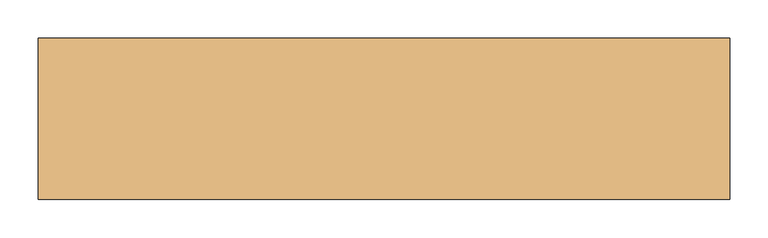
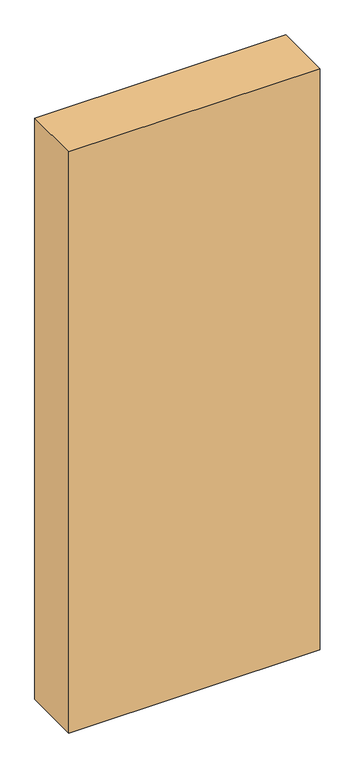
"""IFC4 building model written with IfcOpenShell, lengths in millimetres: door geometry, Dr_Проем-Простой : ДВ."""

import ifcopenshell
import ifcopenshell.guid

model = None  # the IFC model being written
_history = None  # IfcOwnerHistory: only IFC2X3 demands one
_inside = {}  # id of a spatial element -> (the spatial element, [elements in it])
_under = {}  # id of a project, library or spatial element -> (it, [spatial elements below it])
_declared = {}  # id of a project -> (the project, [libraries it declares])
_typed = {}  # id of a type object -> (the type object, [elements of that type])
_made_of = {}  # id of a material, layer set ... -> (it, [elements and type objects made of it])


def new_model(schema):
    """Start an empty IFC model of exactly this schema.

    Asked for "IFC4X3", IfcOpenShell would pick the latest addendum, in which some entities
    have other attributes; the version numbers below select the first issue.
    IFC2X3 requires an IfcOwnerHistory on every rooted entity: one is made here for all.
    """
    global model, _history
    if schema == "IFC4X3":
        model = ifcopenshell.file(schema_version=(4, 3, 0, 0))
    else:
        model = ifcopenshell.file(schema=schema)
    _inside.clear()
    _under.clear()
    _declared.clear()
    _typed.clear()
    _made_of.clear()
    _history = None
    if model.schema == "IFC2X3":
        org = make("IfcOrganization", Name="unknown")
        user = make(
            "IfcPersonAndOrganization",
            ThePerson=make("IfcPerson", FamilyName="unknown"),
            TheOrganization=org,
        )
        app = make(
            "IfcApplication",
            ApplicationDeveloper=org,
            Version="unknown",
            ApplicationFullName="unknown",
            ApplicationIdentifier="unknown",
        )
        _history = make(
            "IfcOwnerHistory",
            OwningUser=user,
            OwningApplication=app,
            ChangeAction="ADDED",
            CreationDate=0,
        )
    return model


def make(cls, **values):
    """One entity of the class cls with the attributes given. An attribute that is None is left unset."""
    return model.create_entity(
        cls, **{name: value for name, value in values.items() if value is not None}
    )


def rooted(cls, **values):
    """An entity with a GlobalId (a new one), such as an element, a storey or a relation."""
    return make(cls, GlobalId=ifcopenshell.guid.new(), OwnerHistory=_history, **values)


def si_unit(unit_type, name, prefix=None):
    """IfcSIUnit, for example si_unit("LENGTHUNIT", "METRE", prefix="MILLI")."""
    return make("IfcSIUnit", UnitType=unit_type, Prefix=prefix, Name=name)


def assignment(units):
    """IfcUnitAssignment: the units of a project."""
    return None if units is None else make("IfcUnitAssignment", Units=units)


def point(xyz):
    """IfcCartesianPoint."""
    return None if xyz is None else make("IfcCartesianPoint", Coordinates=xyz)


def direction(xyz):
    """IfcDirection."""
    return None if xyz is None else make("IfcDirection", DirectionRatios=xyz)


def frame(location, z_axis=None, x_axis=None):
    """IfcAxis2Placement3D, a coordinate frame: its origin and axes. An axis left out is left unset."""
    return make(
        "IfcAxis2Placement3D",
        Location=point(location),
        Axis=direction(z_axis),
        RefDirection=direction(x_axis),
    )


def origin():
    """The frame at (0, 0, 0) with its axes left unset."""
    return frame((0.0, 0.0, 0.0))


def place(relative_to, where):
    """IfcLocalPlacement: puts the frame where relative to a parent placement (None: the world)."""
    return make(
        "IfcLocalPlacement", PlacementRelTo=relative_to, RelativePlacement=where
    )


def context(
    kind, dimensions, precision=None, world=None, true_north=None, identifier=None
):
    """IfcGeometricRepresentationContext, for example the 3D "Model" context."""
    return make(
        "IfcGeometricRepresentationContext",
        ContextIdentifier=identifier,
        ContextType=kind,
        CoordinateSpaceDimension=dimensions,
        Precision=precision,
        WorldCoordinateSystem=world,
        TrueNorth=true_north,
    )


def project(units=None, contexts=None):
    """IfcProject with its units and contexts."""
    return rooted(
        "IfcProject",
        Name="project",
        RepresentationContexts=contexts,
        UnitsInContext=assignment(units),
    )


def spatial(cls, under=None, at=None, **own):
    """A site, building, storey or space (cls), placed at a placement, below another one or the project."""
    s = rooted(cls, ObjectPlacement=at, **own)
    if under is not None:
        _under.setdefault(under.id(), (under, []))[1].append(s)
    return s


def polyline(points):
    """IfcPolyline through the points."""
    return make("IfcPolyline", Points=[point(p) for p in points])


def outline(outer, holes=None, kind="AREA"):
    """IfcArbitraryClosedProfileDef: a profile drawn as a closed curve; with holes, ...WithVoids."""
    if holes is None:
        return make("IfcArbitraryClosedProfileDef", ProfileType=kind, OuterCurve=outer)
    return make(
        "IfcArbitraryProfileDefWithVoids",
        ProfileType=kind,
        OuterCurve=outer,
        InnerCurves=holes,
    )


def extrude(swept, where, along, depth):
    """IfcExtrudedAreaSolid: the profile swept, set in the frame where, extruded along a direction by depth."""
    return make(
        "IfcExtrudedAreaSolid",
        SweptArea=swept,
        Position=where,
        ExtrudedDirection=direction(along),
        Depth=depth,
    )


def shape(context_of_items, identifier, shape_type, items):
    """IfcShapeRepresentation: the items that make up one representation, for example the "Body"."""
    return make(
        "IfcShapeRepresentation",
        ContextOfItems=context_of_items,
        RepresentationIdentifier=identifier,
        RepresentationType=shape_type,
        Items=items,
    )


def source(mapping_origin, context_of_items, identifier, shape_type, items):
    """IfcRepresentationMap: a shape defined once, which mapped items show again and again."""
    return make(
        "IfcRepresentationMap",
        MappingOrigin=mapping_origin,
        MappedRepresentation=shape(context_of_items, identifier, shape_type, items),
    )


def transform(
    local_origin,
    x_axis=None,
    y_axis=None,
    z_axis=None,
    scale=None,
    scale2=None,
    scale3=None,
    uniform=True,
):
    """IfcCartesianTransformationOperator3D, or its non-uniform kind. x_axis, y_axis, z_axis: its Axis1, 2, 3."""
    if uniform:
        return make(
            "IfcCartesianTransformationOperator3D",
            Axis1=direction(x_axis),
            Axis2=direction(y_axis),
            LocalOrigin=point(local_origin),
            Scale=scale,
            Axis3=direction(z_axis),
        )
    return make(
        "IfcCartesianTransformationOperator3DnonUniform",
        Axis1=direction(x_axis),
        Axis2=direction(y_axis),
        LocalOrigin=point(local_origin),
        Scale=scale,
        Axis3=direction(z_axis),
        Scale2=scale2,
        Scale3=scale3,
    )


def mapped(mapping_source, mapping_target):
    """IfcMappedItem: shows the shape of a source again, moved by a transform."""
    return make(
        "IfcMappedItem", MappingSource=mapping_source, MappingTarget=mapping_target
    )


def made_of(thing, what):
    """Note that an element or type object is made of a material, layer set ...; save() writes the relation."""
    if what is not None:
        _made_of.setdefault(what.id(), (what, []))[1].append(thing)
    return thing


def element(
    cls,
    number,
    at=None,
    inside=None,
    cuts=None,
    type_object=None,
    material=None,
    context=None,
    identifier="Body",
    shape_type=None,
    held_by="IfcProductDefinitionShape",
    body=None,
    shapes=None,
    **own,
):
    """One element of the class cls, such as IfcWall. Its Tag is "e" and its number.

    at: its placement. inside: the storey or other place that contains it. cuts: it is an
    opening in that element (IfcRelVoidsElement). A single representation is given by context,
    identifier, shape_type and body (its items); several are given by shapes. held_by: the class
    of the entity that holds the representations. save() writes the other relations.
    """
    e = rooted(cls, Tag="e%d" % number, ObjectPlacement=at, **own)
    if body is not None:
        shapes = [shape(context, identifier, shape_type, body)]
    if shapes is not None:
        e.Representation = make(held_by, Representations=shapes)
    if inside is not None:
        _inside.setdefault(inside.id(), (inside, []))[1].append(e)
    if cuts is not None:
        rooted(
            "IfcRelVoidsElement", RelatingBuildingElement=cuts, RelatedOpeningElement=e
        )
    if type_object is not None:
        _typed.setdefault(type_object.id(), (type_object, []))[1].append(e)
    return made_of(e, material)


def aggregate(whole, parts):
    """IfcRelAggregates: a whole, such as a stair, and the parts it consists of."""
    return rooted("IfcRelAggregates", RelatingObject=whole, RelatedObjects=parts)


def save(model, path):
    """Write the relations noted so far, then the file.

    IfcRelAggregates (storeys below a building ...), IfcRelContainedInSpatialStructure (elements
    in a storey), IfcRelDefinesByType, IfcRelAssociatesMaterial and IfcRelDeclares: one each for
    every whole, place, type object, material and project.
    """
    for whole, parts in _under.values():
        aggregate(whole, parts)
    for where, things in _inside.values():
        rooted(
            "IfcRelContainedInSpatialStructure",
            RelatedElements=things,
            RelatingStructure=where,
        )
    for kind, things in _typed.values():
        rooted("IfcRelDefinesByType", RelatedObjects=things, RelatingType=kind)
    for what, things in _made_of.values():
        rooted("IfcRelAssociatesMaterial", RelatedObjects=things, RelatingMaterial=what)
    for by, libraries in _declared.values():
        rooted("IfcRelDeclares", RelatingContext=by, RelatedDefinitions=libraries)
    model.write(path)


def door_642c7085(model_context):
    return source(origin(), model_context, "Body", "SweptSolid", [
        extrude(outline(polyline([(655.3230163, 105.0), (655.3230163, -105.0), (-244.6769837, -105.0), (-244.6769837, 105.0), (655.3230163, 105.0)])), frame((0.0, 0.0, -100.0), z_axis=(0.0, 0.0, 1.0), x_axis=(1.0, 0.0, 0.0)), (0.0, 0.0, 1.0), 2200.0),
    ])


if __name__ == "__main__":
    model = new_model("IFC4")
    model_context = context("Model", 3, world=origin())
    ifc_project = project(units=[si_unit("LENGTHUNIT", "METRE", prefix="MILLI")], contexts=[model_context])
    site = spatial("IfcSite", under=ifc_project)
    building = spatial("IfcBuilding", under=site)
    placement = place(None, origin())
    door_shape = door_642c7085(model_context)
    element("IfcDoor", 1, ObjectType="Dr_Проем-Простой : ДВ", at=placement, inside=building, context=model_context, shape_type="MappedRepresentation", body=[
        mapped(door_shape, transform((0.0, 0.0, 0.0), x_axis=(1.0, 0.0, 0.0), y_axis=(0.0, 1.0, 0.0), z_axis=(0.0, 0.0, 1.0))),
    ])
    save(model, "model.ifc")
